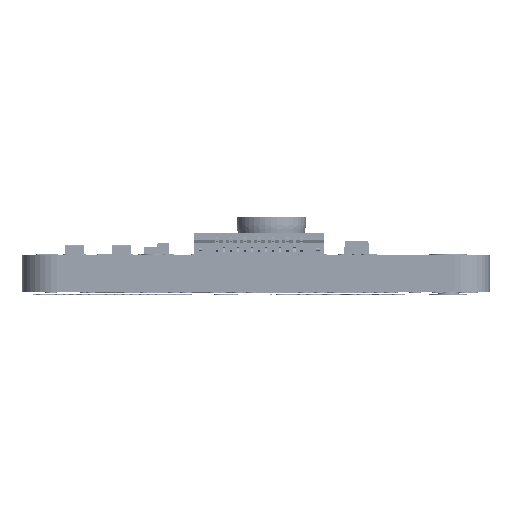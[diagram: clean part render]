
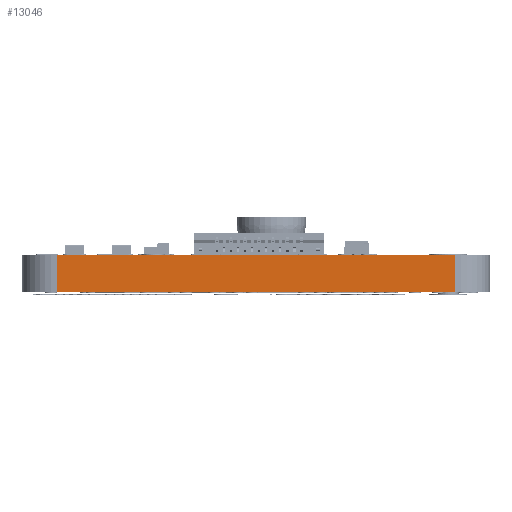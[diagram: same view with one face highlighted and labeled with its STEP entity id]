
A CAD part, left-side view. The second image highlights one B-rep face of the part: STEP entity #13046.
In plain terms, the highlighted planar face has unit normal (-1, 0, 0).
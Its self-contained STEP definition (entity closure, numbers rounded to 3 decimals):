
#13046=ADVANCED_FACE('',(#21334),#144279,.T.);
#21334=FACE_OUTER_BOUND('',#30231,.T.);
#30231=EDGE_LOOP('',(#73226,#73227,#73228,#73229));
#73226=ORIENTED_EDGE('',*,*,#95651,.F.);
#73227=ORIENTED_EDGE('',*,*,#95650,.F.);
#73228=ORIENTED_EDGE('',*,*,#95649,.T.);
#73229=ORIENTED_EDGE('',*,*,#95629,.T.);
#95629=EDGE_CURVE('',#135798,#135799,#121165,.T.);
#95649=EDGE_CURVE('',#135814,#135798,#121171,.T.);
#95650=EDGE_CURVE('',#135814,#135815,#121172,.T.);
#95651=EDGE_CURVE('',#135815,#135799,#121173,.T.);
#121165=B_SPLINE_CURVE_WITH_KNOTS('',1,(#243477,#243478),.UNSPECIFIED.,
 .F.,.F.,(2,2),(0.,17.),.UNSPECIFIED.);
#121171=B_SPLINE_CURVE_WITH_KNOTS('',1,(#243531,#243532),.UNSPECIFIED.,
 .F.,.F.,(2,2),(-1.6,0.),.UNSPECIFIED.);
#121172=B_SPLINE_CURVE_WITH_KNOTS('',1,(#243533,#243534),.UNSPECIFIED.,
 .F.,.F.,(2,2),(0.,17.),.UNSPECIFIED.);
#121173=B_SPLINE_CURVE_WITH_KNOTS('',1,(#243535,#243536),.UNSPECIFIED.,
 .F.,.F.,(2,2),(-1.6,0.),.UNSPECIFIED.);
#135798=VERTEX_POINT('',#243422);
#135799=VERTEX_POINT('',#243423);
#135814=VERTEX_POINT('',#243438);
#135815=VERTEX_POINT('',#243439);
#144279=PLANE('',#156787);
#156787=AXIS2_PLACEMENT_3D('',#243394,#172932,$);
#172932=DIRECTION('',(-1.,0.,0.));
#243394=CARTESIAN_POINT('',(-12.,-8.5,0.));
#243422=CARTESIAN_POINT('',(-12.,8.5,0.));
#243423=CARTESIAN_POINT('',(-12.,-8.5,0.));
#243438=CARTESIAN_POINT('',(-12.,8.5,1.6));
#243439=CARTESIAN_POINT('',(-12.,-8.5,1.6));
#243477=CARTESIAN_POINT('',(-12.,8.5,0.));
#243478=CARTESIAN_POINT('',(-12.,-8.5,0.));
#243531=CARTESIAN_POINT('',(-12.,8.5,1.6));
#243532=CARTESIAN_POINT('',(-12.,8.5,0.));
#243533=CARTESIAN_POINT('',(-12.,8.5,1.6));
#243534=CARTESIAN_POINT('',(-12.,-8.5,1.6));
#243535=CARTESIAN_POINT('',(-12.,-8.5,1.6));
#243536=CARTESIAN_POINT('',(-12.,-8.5,0.));
